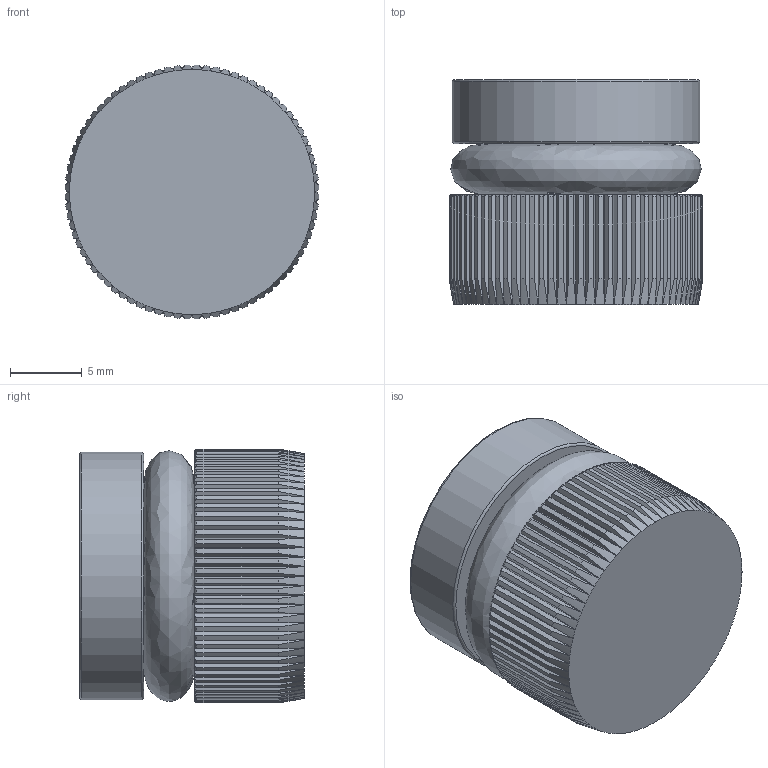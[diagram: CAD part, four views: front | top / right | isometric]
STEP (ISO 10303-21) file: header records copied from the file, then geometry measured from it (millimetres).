
FILE_DESCRIPTION(/* description */ (''),/* implementation_level */ '2;1');
FILE_NAME(/* name */ 'C:/Users/drich/Desktop/BTP-60 v1.step',/* time_stamp */ '2020-01-08T16:05:52-06:00',/* author */ (''),/* organization */ (''),/* preprocessor_version */ 'ST-DEVELOPER v18',/* originating_system */ 'Autodesk Translation Framework v8.12.0.6',/* authorisation */ '');
FILE_SCHEMA (('AUTOMOTIVE_DESIGN { 1 0 10303 214 3 1 1 }'));
Length unit declared in the file: inch
Products named in the file (1): BTP-60
Bounding box: 17.65 x 15.62 x 17.65 mm (x, y, z)
Volume: 3530.2 mm3; surface area: 2481.5 mm2
Topology: 3 solids, 3 shells, 421 faces, 1250 edges, 835 vertices
Faces by surface type: plane 172, torus 84, cone 82, cylinder 82, bspline 1
Full cylindrical faces by diameter (mm): 8.636 x1, 17.196 x1
Entity records: 15220 total; most frequent: CARTESIAN_POINT 4345, ORIENTED_EDGE 2496, DIRECTION 2116, EDGE_CURVE 1248, VERTEX_POINT 835, AXIS2_PLACEMENT_3D 767, LINE 582, VECTOR 582
